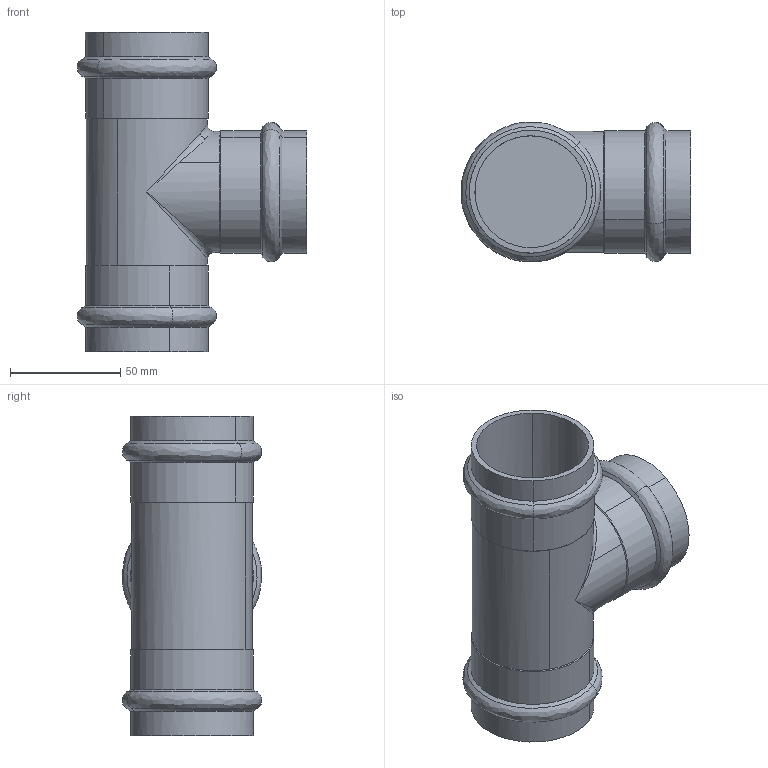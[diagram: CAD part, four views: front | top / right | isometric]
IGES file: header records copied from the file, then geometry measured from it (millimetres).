
Start section: 3D InterOp IGES (Version 25 0 1), Spatial Corp. Copyright (c) 1999-2007.
Global section: file name: pim0004529.igs; native system: Spatial Corp.; preprocessor: 3D InterOp ACIS/IGES; author: Cad-Pim; organization: TransMagic, Inc.; date: 20150430.164113; units: millimetre
Bounding box: 104.06 x 63.19 x 145 mm (x, y, z)
Volume: 246040.6 mm3; surface area: 60113.8 mm2
Topology: 1 solids, 1 shells, 56 faces, 154 edges, 99 vertices
Faces by surface type: cylinder 22, cone 18, bspline 16
